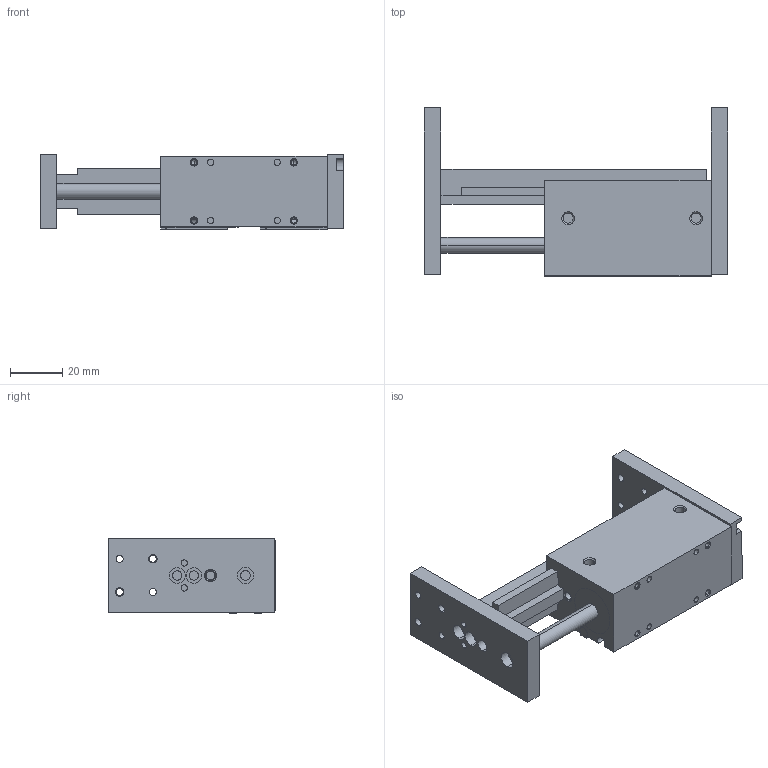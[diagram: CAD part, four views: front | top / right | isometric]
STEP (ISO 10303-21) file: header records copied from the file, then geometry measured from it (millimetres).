
FILE_DESCRIPTION (( 'STEP AP203' ), '1' );
FILE_NAME ('AGPS-2-3 OPEN in MM.STEP', '2014-11-21T19:54:52', ( 'setup' ), ( '' ), 'SwSTEP 2.0', 'SolidWorks 2013', '' );
FILE_SCHEMA (( 'CONFIG_CONTROL_DESIGN' ));
Length unit declared in the file: millimetre
Products named in the file (8): AGPS-2-3 RAIL; AGPS-2-3 PROD; AGPS-2-3 SENSOR; AGPS-2-3 END PLATE B; AGPS-2-3 END PLATE A; AGPS-2-3 OPEN in MM; AGPS-2-3 BODY; AGPS-2-3 CUSHION
Assembly tree (8 placements, depth 2):
  AGPS-2-3 OPEN in MM
    AGPS-2-3 BODY
    AGPS-2-3 CUSHION
    AGPS-2-3 RAIL
    AGPS-2-3 PROD
    AGPS-2-3 SENSOR  x2
    AGPS-2-3 END PLATE B
    AGPS-2-3 END PLATE A
Bounding box: 115.89 x 64.16 x 29 mm (x, y, z)
Volume: 88012 mm3; surface area: 34880 mm2
Topology: 8 solids, 8 shells, 299 faces, 719 edges, 457 vertices
Faces by surface type: cylinder 137, plane 118, cone 44
Entity records: 8966 total; most frequent: DIRECTION 1478, CARTESIAN_POINT 1464, ORIENTED_EDGE 1288, EDGE_CURVE 644, AXIS2_PLACEMENT_3D 561, VERTEX_POINT 417, LINE 356, VECTOR 356
